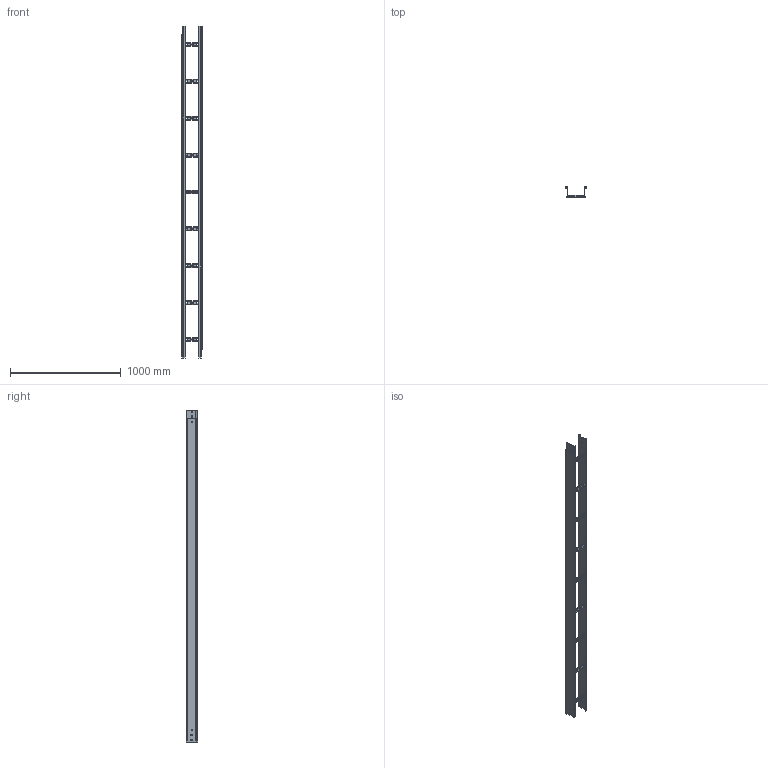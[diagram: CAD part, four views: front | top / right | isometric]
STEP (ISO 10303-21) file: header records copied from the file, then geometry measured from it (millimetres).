
FILE_DESCRIPTION (( 'STEP AP203' ), '1' );
FILE_NAME ('FE trav35 H60-75-100 p333 150x100.step', '2023-07-28T15:28:35', ( '' ), ( '' ), 'SwSTEP 2.0', 'SolidWorks 2022', '' );
FILE_SCHEMA (( 'CONFIG_CONTROL_DESIGN' ));
Length unit declared in the file: millimetre
Products named in the file (3): FE_RA35_150; FE_MONTANTE_100x2; FE trav35 H60-75-100 p333 150x100
Assembly tree (11 placements, depth 2):
  FE trav35 H60-75-100 p333 150x100
    FE_MONTANTE_100x2  x2
    FE_RA35_150  x9
Bounding box: 184 x 102 x 3000 mm (x, y, z)
Volume: 1864500.2 mm3; surface area: 1946320.9 mm2
Topology: 11 solids, 11 shells, 643 faces, 1573 edges, 952 vertices
Faces by surface type: plane 422, cylinder 217, bspline 4
Entity records: 5262 total; most frequent: CARTESIAN_POINT 1195, DIRECTION 762, ORIENTED_EDGE 726, EDGE_CURVE 363, AXIS2_PLACEMENT_3D 269, VERTEX_POINT 231, LINE 224, VECTOR 224
